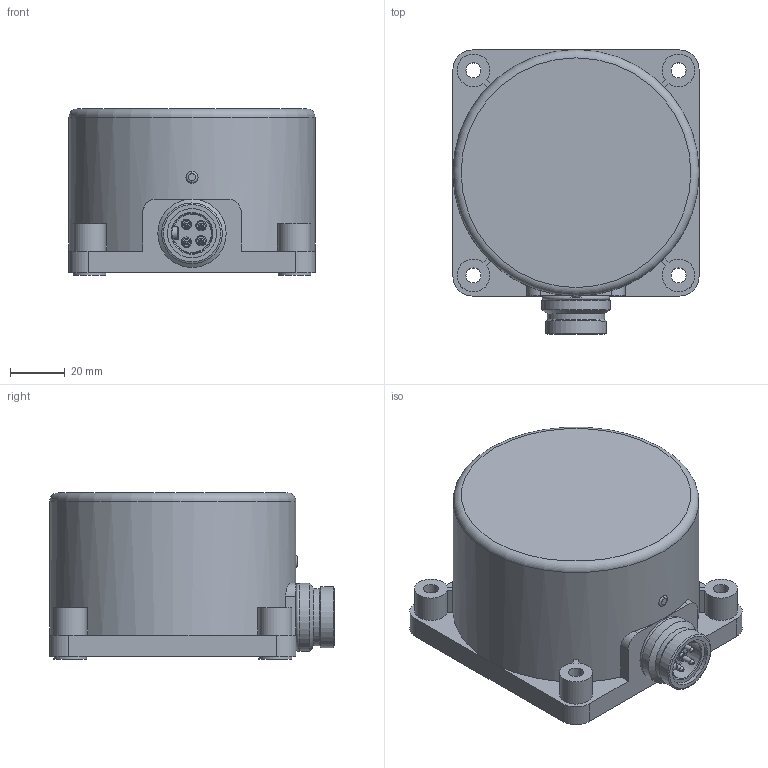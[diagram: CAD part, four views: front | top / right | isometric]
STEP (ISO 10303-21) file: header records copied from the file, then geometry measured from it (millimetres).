
FILE_DESCRIPTION((''),'2;1');
FILE_NAME('C:\TurckZip\K90-X-B2.stp','2010-05-03T15:14:15',('IKOROL'),(''),'Autodesk Inventor 2009','Autodesk Inventor 2009','');
FILE_SCHEMA(('CONFIG_CONTROL_DESIGN'));
Length unit declared in the file: millimetre
Products named in the file (1): Part1
Bounding box: 90 x 104 x 60.8 mm (x, y, z)
Volume: 403163.9 mm3; surface area: 38560 mm2
Topology: 2 solids, 11 shells, 167 faces, 353 edges, 230 vertices
Faces by surface type: plane 74, cylinder 68, cone 15, bspline 6, torus 4
Full cylindrical faces by diameter (mm): 0.8 x8, 1.5 x4, 1.6 x4, 1.7 x4, 1.98 x4, 2 x8, 3 x8, 5.5 x4, 12 x4, 14 x1, 18 x2, 21 x1, 22.2 x1, 25 x1, 90 x1
Entity records: 5008 total; most frequent: CARTESIAN_POINT 1494, DIRECTION 711, ORIENTED_EDGE 516, AXIS2_PLACEMENT_3D 317, EDGE_LOOP 298, EDGE_CURVE 258, VERTEX_POINT 208, FACE_OUTER_BOUND 167
